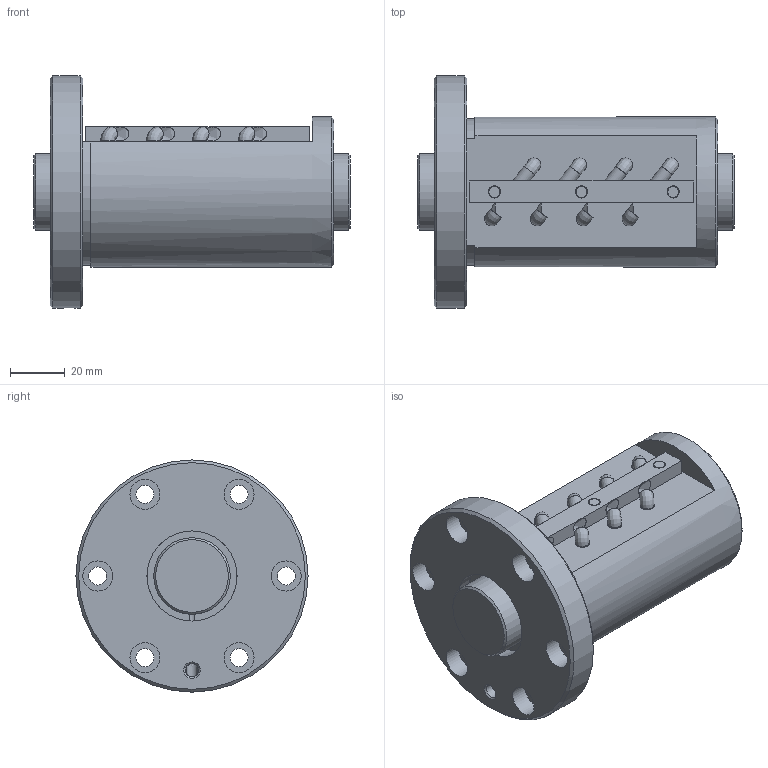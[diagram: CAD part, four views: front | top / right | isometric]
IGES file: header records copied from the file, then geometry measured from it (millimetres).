
Start section: Data from Parasolid IGES Translator 26.0.171, Copyright(c) 2006 Siemens PLM Software. All Rights Reserved.
Global section: file name: BIF2806V-10RRG0+116LC0_000.igs; native system: By Siemens PLM Incorporated; preprocessor: XPlus GENERIC/IGES 26.0.171; author: Noname; organization: Noname; date: 20240715.081815; units: millimetre
Bounding box: 116 x 85 x 85 mm (x, y, z)
Surface area: 53316.4 mm2 (no closed solid volume)
Topology: 0 solids, 0 shells, 130 faces, 590 edges, 552 vertices
Faces by surface type: revolution 77, extrusion 53
